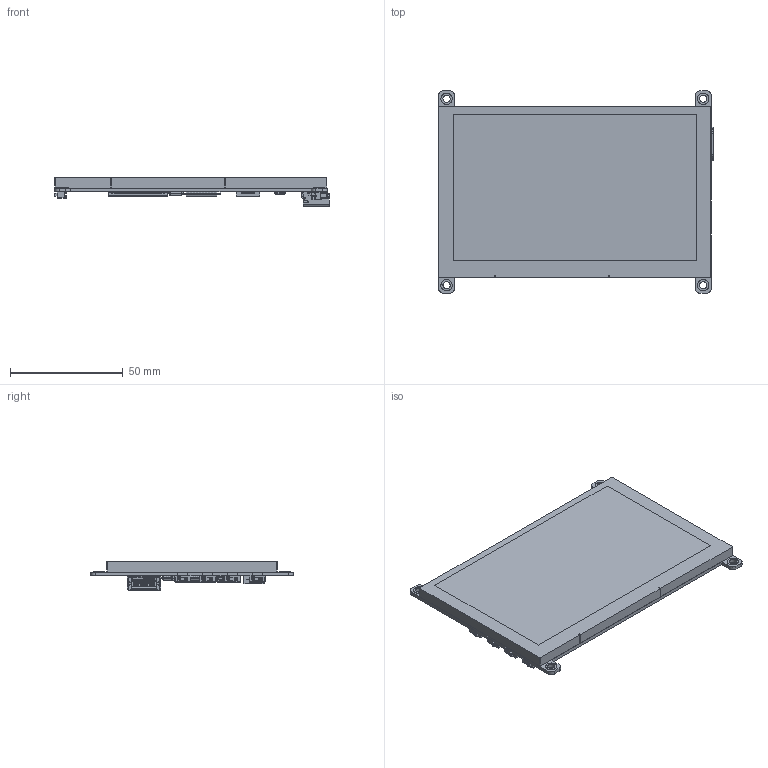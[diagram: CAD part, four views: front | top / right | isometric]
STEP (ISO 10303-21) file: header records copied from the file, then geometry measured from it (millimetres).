
FILE_DESCRIPTION(('HOOPS Exchange Step'),'2;1');
FILE_NAME('\\Server-1\e\公共文件夹\7.产品资料库\彩色-TFT\5寸\ER-TFTV050A3-3\3D\ER-TFTV050A3-3.step','2021-01-28T11:32:25+08:00',('Administrator'),('Unknown organisation'),'HOOPS Exchange 2018.2','glovius.exe','Unknown authorisation');
FILE_SCHEMA( ('AUTOMOTIVE_DESIGN { 1 0 10303 214 1 1 1 1 }') );
Length unit declared in the file: millimetre
Products named in the file (12): Micro-USB-1; HDMI_卡座-1; XPT2046-1; 连接器_50-Pin-1; 拨动开关-2; FLASH_IC-1; 043A3-050A3-3 IC-2; V050A3-3-1; 连接器_6-Pin-1; ER-TFTV043A3-3开关 - 副本-1; Default; ER-TFTV050A3-3
Assembly tree (16 placements, depth 3):
  ER-TFTV050A3-3
    Default
      Micro-USB-1  x2
      HDMI_卡座-1
      XPT2046-1  x2
      连接器_50-Pin-1
      拨动开关-2
      FLASH_IC-1
      043A3-050A3-3 IC-2
      V050A3-3-1
      连接器_6-Pin-1
      ER-TFTV043A3-3开关 - 副本-1  x4
Bounding box: 121.88 x 89.8 x 12.7 mm (x, y, z)
Volume: 58535.7 mm3; surface area: 48964.8 mm2
Topology: 116 solids, 116 shells, 6274 faces, 16870 edges, 11043 vertices
Faces by surface type: bspline 6274
Entity records: 396003 total; most frequent: CARTESIAN_POINT 214374, B_SPLINE_CURVE_WITH_KNOTS 38739, DEFINITIONAL_REPRESENTATION 27962, PCURVE 27962, ORIENTED_EDGE 27962, INTERSECTION_CURVE 13981, EDGE_CURVE 13981, VERTEX_POINT 9233
